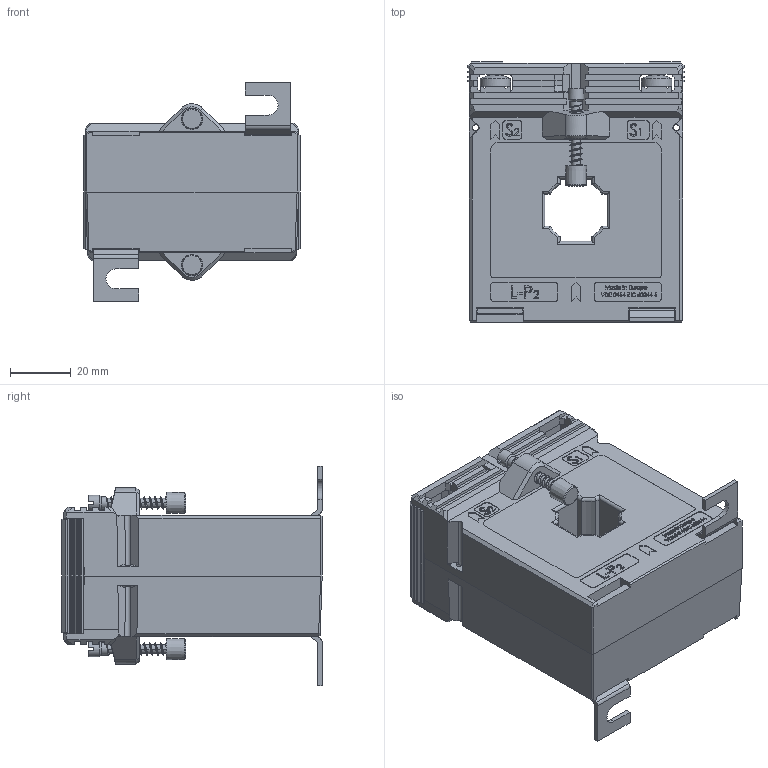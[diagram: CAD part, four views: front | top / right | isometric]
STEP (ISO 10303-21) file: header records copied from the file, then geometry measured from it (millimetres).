
FILE_DESCRIPTION(/* description */ (''),/* implementation_level */ '2;1');
FILE_NAME(/* name */ 'ASK421.4.stp',/* time_stamp */ '2024-03-05T09:32:53+01:00',/* author */ ('JDI'),/* organization */ (''),/* preprocessor_version */ 'ST-DEVELOPER v19.2',/* originating_system */ 'Autodesk Inventor 2023',/* authorisation */ '');
FILE_SCHEMA (('AUTOMOTIVE_DESIGN { 1 0 10303 214 3 1 1 }'));
Products named in the file (1): ASK421.4
Bounding box: 71 x 85.5 x 72 mm (x, y, z)
Volume: 210391.9 mm3; surface area: 41339.7 mm2
Topology: 1 solids, 1 shells, 1851 faces, 4901 edges, 3152 vertices
Faces by surface type: plane 1304, bspline 318, cylinder 166, cone 43, torus 12, sphere 8
Full cylindrical faces by diameter (mm): 2.95 x2, 3 x26, 3.8 x4, 4 x18, 4.1 x2, 5 x2, 10 x4
Entity records: 80489 total; most frequent: CARTESIAN_POINT 35125, ORIENTED_EDGE 9802, DIRECTION 7543, EDGE_CURVE 4901, LINE 3675, VECTOR 3675, VERTEX_POINT 3152, EDGE_LOOP 2017
